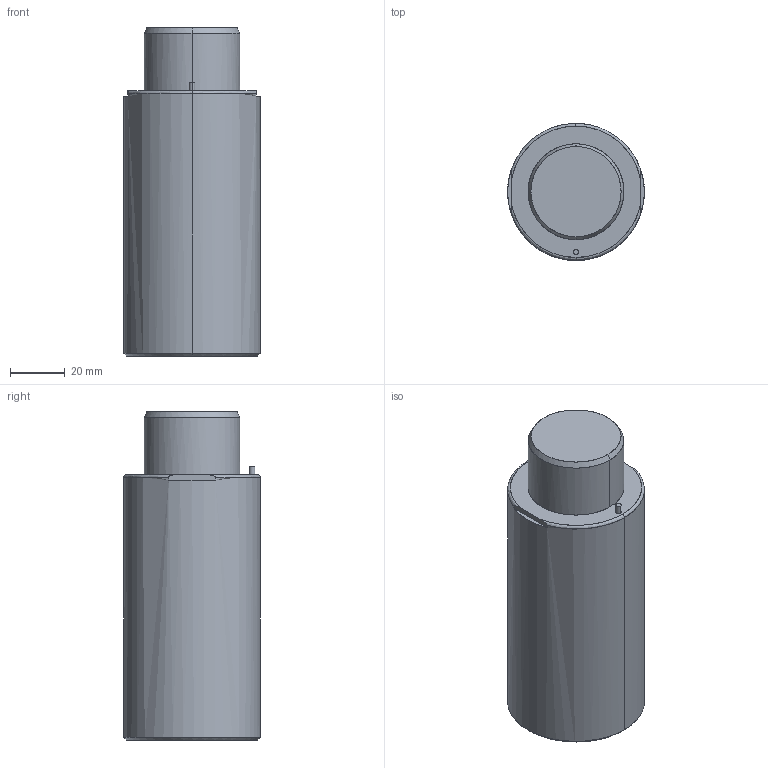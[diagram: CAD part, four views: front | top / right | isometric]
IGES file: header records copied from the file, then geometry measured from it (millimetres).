
Global section: file name: E:\UnigraphicsGraphicData\MISUMI_PRESS-PARTS\IGES\3d_gsx50-20_03984_r00.igs; native system: NX V5.0; preprocessor: UGS NX IGES V5.0; author: MISUMI; date: 20110105.160827; units: millimetre
Bounding box: 50 x 50 x 120 mm (x, y, z)
Surface area: 23161.4 mm2 (no closed solid volume)
Topology: 0 solids, 0 shells, 59 faces, 428 edges, 420 vertices
Faces by surface type: bspline 59
